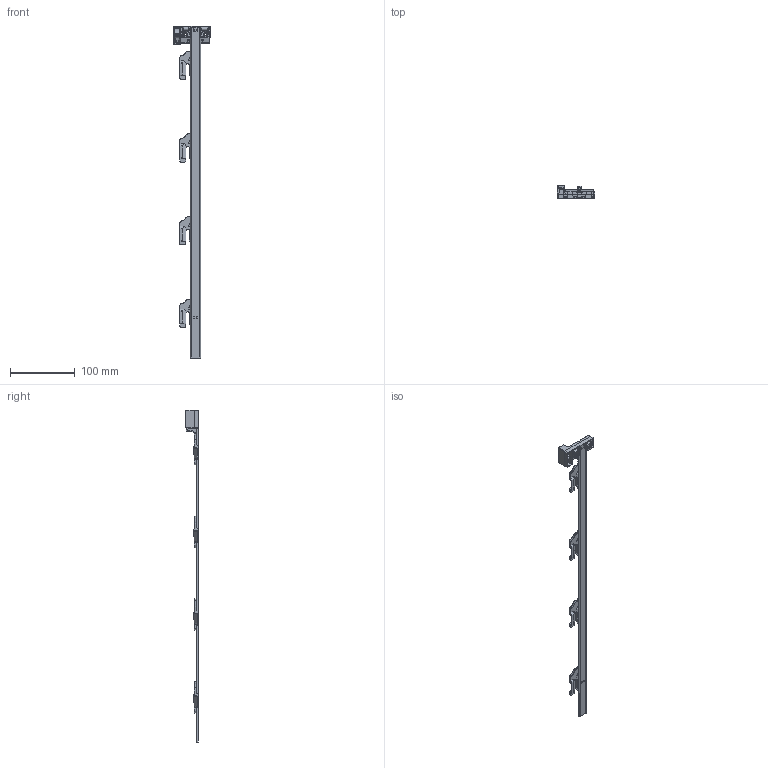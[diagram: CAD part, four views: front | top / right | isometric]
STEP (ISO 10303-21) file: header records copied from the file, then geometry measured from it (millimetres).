
FILE_DESCRIPTION(/* description */ (''),/* implementation_level */ '2;1');
FILE_NAME(/* name */ 'S:\EW-Aufträge\EW-Aufträge 2021\KON\21-2026_DEMOS_3D Daten für Online Katalog, lt Excel Liste\02_Bearbeitung\Step_SWI\265125201.stp',/* time_stamp */ '2021-02-22T08:56:26+01:00',/* author */ ('Bessel'),/* organization */ (''),/* preprocessor_version */ 'ST-DEVELOPER v18.1',/* originating_system */ 'Autodesk Inventor 2020',/* authorisation */ '');
FILE_SCHEMA (('AUTOMOTIVE_DESIGN { 1 0 10303 214 3 1 1 }'));
Products named in the file (1): Bauteil6
Bounding box: 58.4 x 20 x 513.8 mm (x, y, z)
Volume: 44030.4 mm3; surface area: 40210.8 mm2
Topology: 1 solids, 3 shells, 1654 faces, 4379 edges, 2673 vertices
Faces by surface type: plane 623, bspline 517, cylinder 403, sphere 48, cone 46, torus 17
Full cylindrical faces by diameter (mm): 1.5 x1, 7.96 x2, 9.5 x1
Entity records: 77752 total; most frequent: CARTESIAN_POINT 38004, ORIENTED_EDGE 8678, DIRECTION 6807, EDGE_CURVE 4339, VERTEX_POINT 2673, AXIS2_PLACEMENT_3D 2357, LINE 2093, VECTOR 2093
